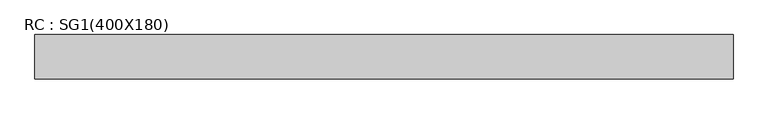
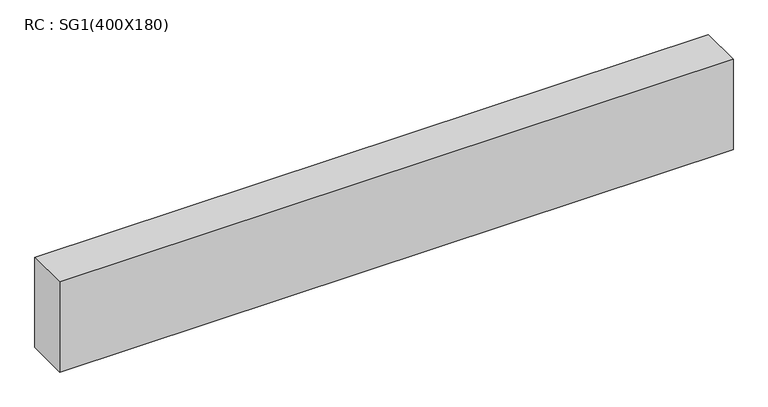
"""IFC4 building model written with IfcOpenShell, lengths in millimetres: beam geometry, RC : SG1(400X180)."""

import ifcopenshell
import ifcopenshell.guid

model = None  # the IFC model being written
_history = None  # IfcOwnerHistory: only IFC2X3 demands one
_inside = {}  # id of a spatial element -> (the spatial element, [elements in it])
_under = {}  # id of a project, library or spatial element -> (it, [spatial elements below it])
_declared = {}  # id of a project -> (the project, [libraries it declares])
_typed = {}  # id of a type object -> (the type object, [elements of that type])
_made_of = {}  # id of a material, layer set ... -> (it, [elements and type objects made of it])


def new_model(schema):
    """Start an empty IFC model of exactly this schema.

    Asked for "IFC4X3", IfcOpenShell would pick the latest addendum, in which some entities
    have other attributes; the version numbers below select the first issue.
    IFC2X3 requires an IfcOwnerHistory on every rooted entity: one is made here for all.
    """
    global model, _history
    if schema == "IFC4X3":
        model = ifcopenshell.file(schema_version=(4, 3, 0, 0))
    else:
        model = ifcopenshell.file(schema=schema)
    _inside.clear()
    _under.clear()
    _declared.clear()
    _typed.clear()
    _made_of.clear()
    _history = None
    if model.schema == "IFC2X3":
        org = make("IfcOrganization", Name="unknown")
        user = make(
            "IfcPersonAndOrganization",
            ThePerson=make("IfcPerson", FamilyName="unknown"),
            TheOrganization=org,
        )
        app = make(
            "IfcApplication",
            ApplicationDeveloper=org,
            Version="unknown",
            ApplicationFullName="unknown",
            ApplicationIdentifier="unknown",
        )
        _history = make(
            "IfcOwnerHistory",
            OwningUser=user,
            OwningApplication=app,
            ChangeAction="ADDED",
            CreationDate=0,
        )
    return model


def make(cls, **values):
    """One entity of the class cls with the attributes given. An attribute that is None is left unset."""
    return model.create_entity(
        cls, **{name: value for name, value in values.items() if value is not None}
    )


def rooted(cls, **values):
    """An entity with a GlobalId (a new one), such as an element, a storey or a relation."""
    return make(cls, GlobalId=ifcopenshell.guid.new(), OwnerHistory=_history, **values)


def si_unit(unit_type, name, prefix=None):
    """IfcSIUnit, for example si_unit("LENGTHUNIT", "METRE", prefix="MILLI")."""
    return make("IfcSIUnit", UnitType=unit_type, Prefix=prefix, Name=name)


def assignment(units):
    """IfcUnitAssignment: the units of a project."""
    return None if units is None else make("IfcUnitAssignment", Units=units)


def point(xyz):
    """IfcCartesianPoint."""
    return None if xyz is None else make("IfcCartesianPoint", Coordinates=xyz)


def direction(xyz):
    """IfcDirection."""
    return None if xyz is None else make("IfcDirection", DirectionRatios=xyz)


def frame(location, z_axis=None, x_axis=None):
    """IfcAxis2Placement3D, a coordinate frame: its origin and axes. An axis left out is left unset."""
    return make(
        "IfcAxis2Placement3D",
        Location=point(location),
        Axis=direction(z_axis),
        RefDirection=direction(x_axis),
    )


def origin():
    """The frame at (0, 0, 0) with its axes left unset."""
    return frame((0.0, 0.0, 0.0))


def place(relative_to, where):
    """IfcLocalPlacement: puts the frame where relative to a parent placement (None: the world)."""
    return make(
        "IfcLocalPlacement", PlacementRelTo=relative_to, RelativePlacement=where
    )


def context(
    kind, dimensions, precision=None, world=None, true_north=None, identifier=None
):
    """IfcGeometricRepresentationContext, for example the 3D "Model" context."""
    return make(
        "IfcGeometricRepresentationContext",
        ContextIdentifier=identifier,
        ContextType=kind,
        CoordinateSpaceDimension=dimensions,
        Precision=precision,
        WorldCoordinateSystem=world,
        TrueNorth=true_north,
    )


def project(units=None, contexts=None):
    """IfcProject with its units and contexts."""
    return rooted(
        "IfcProject",
        Name="project",
        RepresentationContexts=contexts,
        UnitsInContext=assignment(units),
    )


def spatial(cls, under=None, at=None, **own):
    """A site, building, storey or space (cls), placed at a placement, below another one or the project."""
    s = rooted(cls, ObjectPlacement=at, **own)
    if under is not None:
        _under.setdefault(under.id(), (under, []))[1].append(s)
    return s


def polyline(points):
    """IfcPolyline through the points."""
    return make("IfcPolyline", Points=[point(p) for p in points])


def outline(outer, holes=None, kind="AREA"):
    """IfcArbitraryClosedProfileDef: a profile drawn as a closed curve; with holes, ...WithVoids."""
    if holes is None:
        return make("IfcArbitraryClosedProfileDef", ProfileType=kind, OuterCurve=outer)
    return make(
        "IfcArbitraryProfileDefWithVoids",
        ProfileType=kind,
        OuterCurve=outer,
        InnerCurves=holes,
    )


def extrude(swept, where, along, depth):
    """IfcExtrudedAreaSolid: the profile swept, set in the frame where, extruded along a direction by depth."""
    return make(
        "IfcExtrudedAreaSolid",
        SweptArea=swept,
        Position=where,
        ExtrudedDirection=direction(along),
        Depth=depth,
    )


def shape(context_of_items, identifier, shape_type, items):
    """IfcShapeRepresentation: the items that make up one representation, for example the "Body"."""
    return make(
        "IfcShapeRepresentation",
        ContextOfItems=context_of_items,
        RepresentationIdentifier=identifier,
        RepresentationType=shape_type,
        Items=items,
    )


def source(mapping_origin, context_of_items, identifier, shape_type, items):
    """IfcRepresentationMap: a shape defined once, which mapped items show again and again."""
    return make(
        "IfcRepresentationMap",
        MappingOrigin=mapping_origin,
        MappedRepresentation=shape(context_of_items, identifier, shape_type, items),
    )


def transform(
    local_origin,
    x_axis=None,
    y_axis=None,
    z_axis=None,
    scale=None,
    scale2=None,
    scale3=None,
    uniform=True,
):
    """IfcCartesianTransformationOperator3D, or its non-uniform kind. x_axis, y_axis, z_axis: its Axis1, 2, 3."""
    if uniform:
        return make(
            "IfcCartesianTransformationOperator3D",
            Axis1=direction(x_axis),
            Axis2=direction(y_axis),
            LocalOrigin=point(local_origin),
            Scale=scale,
            Axis3=direction(z_axis),
        )
    return make(
        "IfcCartesianTransformationOperator3DnonUniform",
        Axis1=direction(x_axis),
        Axis2=direction(y_axis),
        LocalOrigin=point(local_origin),
        Scale=scale,
        Axis3=direction(z_axis),
        Scale2=scale2,
        Scale3=scale3,
    )


def mapped(mapping_source, mapping_target):
    """IfcMappedItem: shows the shape of a source again, moved by a transform."""
    return make(
        "IfcMappedItem", MappingSource=mapping_source, MappingTarget=mapping_target
    )


def made_of(thing, what):
    """Note that an element or type object is made of a material, layer set ...; save() writes the relation."""
    if what is not None:
        _made_of.setdefault(what.id(), (what, []))[1].append(thing)
    return thing


def element(
    cls,
    number,
    at=None,
    inside=None,
    cuts=None,
    type_object=None,
    material=None,
    context=None,
    identifier="Body",
    shape_type=None,
    held_by="IfcProductDefinitionShape",
    body=None,
    shapes=None,
    **own,
):
    """One element of the class cls, such as IfcWall. Its Tag is "e" and its number.

    at: its placement. inside: the storey or other place that contains it. cuts: it is an
    opening in that element (IfcRelVoidsElement). A single representation is given by context,
    identifier, shape_type and body (its items); several are given by shapes. held_by: the class
    of the entity that holds the representations. save() writes the other relations.
    """
    e = rooted(cls, Tag="e%d" % number, ObjectPlacement=at, **own)
    if body is not None:
        shapes = [shape(context, identifier, shape_type, body)]
    if shapes is not None:
        e.Representation = make(held_by, Representations=shapes)
    if inside is not None:
        _inside.setdefault(inside.id(), (inside, []))[1].append(e)
    if cuts is not None:
        rooted(
            "IfcRelVoidsElement", RelatingBuildingElement=cuts, RelatedOpeningElement=e
        )
    if type_object is not None:
        _typed.setdefault(type_object.id(), (type_object, []))[1].append(e)
    return made_of(e, material)


def aggregate(whole, parts):
    """IfcRelAggregates: a whole, such as a stair, and the parts it consists of."""
    return rooted("IfcRelAggregates", RelatingObject=whole, RelatedObjects=parts)


def save(model, path):
    """Write the relations noted so far, then the file.

    IfcRelAggregates (storeys below a building ...), IfcRelContainedInSpatialStructure (elements
    in a storey), IfcRelDefinesByType, IfcRelAssociatesMaterial and IfcRelDeclares: one each for
    every whole, place, type object, material and project.
    """
    for whole, parts in _under.values():
        aggregate(whole, parts)
    for where, things in _inside.values():
        rooted(
            "IfcRelContainedInSpatialStructure",
            RelatedElements=things,
            RelatingStructure=where,
        )
    for kind, things in _typed.values():
        rooted("IfcRelDefinesByType", RelatedObjects=things, RelatingType=kind)
    for what, things in _made_of.values():
        rooted("IfcRelAssociatesMaterial", RelatedObjects=things, RelatingMaterial=what)
    for by, libraries in _declared.values():
        rooted("IfcRelDeclares", RelatingContext=by, RelatedDefinitions=libraries)
    model.write(path)


def rc_sg1_400x180_0dba03ef(model_context):
    return source(origin(), model_context, "Body", "SweptSolid", [
        extrude(outline(polyline([(1367.9306077, 90.0), (1367.9306077, -90.0), (-1461.9732228, -90.0), (-1461.9732228, 90.0), (1367.9306077, 90.0)])), frame((0.0, 0.0, -200.0), z_axis=(0.0, 0.0, 1.0), x_axis=(1.0, 0.0, 0.0)), (0.0, 0.0, 1.0), 400.0),
    ])


if __name__ == "__main__":
    model = new_model("IFC4")
    model_context = context("Model", 3, world=origin())
    ifc_project = project(units=[si_unit("LENGTHUNIT", "METRE", prefix="MILLI")], contexts=[model_context])
    site = spatial("IfcSite", under=ifc_project)
    building = spatial("IfcBuilding", under=site)
    placement = place(None, origin())
    rc_sg1_400x180_shape = rc_sg1_400x180_0dba03ef(model_context)
    element("IfcBeam", 1, ObjectType="RC : SG1(400X180)", at=placement, inside=building, context=model_context, shape_type="MappedRepresentation", body=[
        mapped(rc_sg1_400x180_shape, transform((0.0, 0.0, 0.0), x_axis=(1.0, 0.0, 0.0), y_axis=(0.0, 1.0, 0.0), z_axis=(0.0, 0.0, 1.0))),
    ])
    save(model, "model.ifc")
